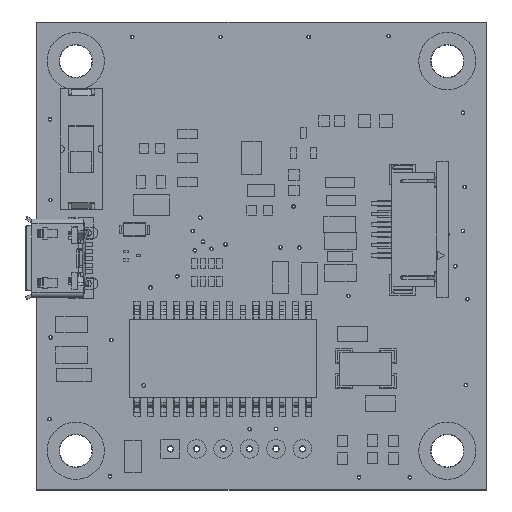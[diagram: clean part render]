
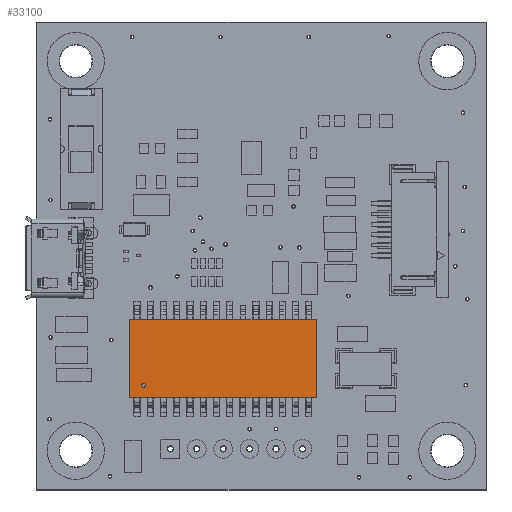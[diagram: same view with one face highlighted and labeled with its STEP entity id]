
A CAD part, top view. The second image highlights one B-rep face of the part: STEP entity #33100.
In plain terms, the highlighted planar face has unit normal (0, 0, 1).
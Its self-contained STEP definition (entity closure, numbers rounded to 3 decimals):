
#4414 = DIRECTION ( 'NONE',  ( 0., 1., 0. ) ) ;
#4672 = CARTESIAN_POINT ( 'NONE',  ( 26.877, 8.87, 4.195 ) ) ;
#8364 = VERTEX_POINT ( 'NONE', #65364 ) ;
#28915 = ORIENTED_EDGE ( 'NONE', *, *, #157528, .F. ) ;
#33100 = ADVANCED_FACE ( 'NONE', ( #87608 ), #169010, .T. ) ;
#33480 = LINE ( 'NONE', #48653, #153305 ) ;
#36817 = DIRECTION ( 'NONE',  ( 0., 1., 0. ) ) ;
#38564 = LINE ( 'NONE', #133447, #47426 ) ;
#41308 = CARTESIAN_POINT ( 'NONE',  ( 26.877, 16.362, 4.195 ) ) ;
#47426 = VECTOR ( 'NONE', #36817, 1000. ) ;
#47625 = EDGE_CURVE ( 'NONE', #8364, #148837, #33480, .T. ) ;
#48653 = CARTESIAN_POINT ( 'NONE',  ( 8.969, 8.87, 4.195 ) ) ;
#48887 = CARTESIAN_POINT ( 'NONE',  ( 8.969, 8.87, 4.195 ) ) ;
#55620 = DIRECTION ( 'NONE',  ( 1., 0., 0. ) ) ;
#58943 = EDGE_CURVE ( 'NONE', #109315, #149779, #174054, .T. ) ;
#65364 = CARTESIAN_POINT ( 'NONE',  ( 26.877, 8.87, 4.195 ) ) ;
#73526 = DIRECTION ( 'NONE',  ( 0., -1., 0. ) ) ;
#75045 = DIRECTION ( 'NONE',  ( 0., 0., 1. ) ) ;
#80706 = CARTESIAN_POINT ( 'NONE',  ( 8.969, 16.362, 4.195 ) ) ;
#82381 = AXIS2_PLACEMENT_3D ( 'NONE', #153830, #75045, #4414 ) ;
#84304 = LINE ( 'NONE', #4672, #143519 ) ;
#87608 = FACE_OUTER_BOUND ( 'NONE', #163378, .T. ) ;
#87939 = ORIENTED_EDGE ( 'NONE', *, *, #58943, .F. ) ;
#94097 = EDGE_CURVE ( 'NONE', #149779, #8364, #84304, .T. ) ;
#109315 = VERTEX_POINT ( 'NONE', #80706 ) ;
#129948 = ORIENTED_EDGE ( 'NONE', *, *, #94097, .F. ) ;
#133447 = CARTESIAN_POINT ( 'NONE',  ( 8.969, 16.362, 4.195 ) ) ;
#143519 = VECTOR ( 'NONE', #73526, 1000. ) ;
#143535 = DIRECTION ( 'NONE',  ( -1., 0., 0. ) ) ;
#143611 = ORIENTED_EDGE ( 'NONE', *, *, #47625, .F. ) ;
#148837 = VERTEX_POINT ( 'NONE', #48887 ) ;
#149779 = VERTEX_POINT ( 'NONE', #160259 ) ;
#153305 = VECTOR ( 'NONE', #143535, 1000. ) ;
#153830 = CARTESIAN_POINT ( 'NONE',  ( 26.877, 8.87, 4.195 ) ) ;
#157528 = EDGE_CURVE ( 'NONE', #148837, #109315, #38564, .T. ) ;
#160259 = CARTESIAN_POINT ( 'NONE',  ( 26.877, 16.362, 4.195 ) ) ;
#162507 = VECTOR ( 'NONE', #55620, 1000. ) ;
#163378 = EDGE_LOOP ( 'NONE', ( #28915, #143611, #129948, #87939 ) ) ;
#169010 = PLANE ( 'NONE',  #82381 ) ;
#174054 = LINE ( 'NONE', #41308, #162507 ) ;
